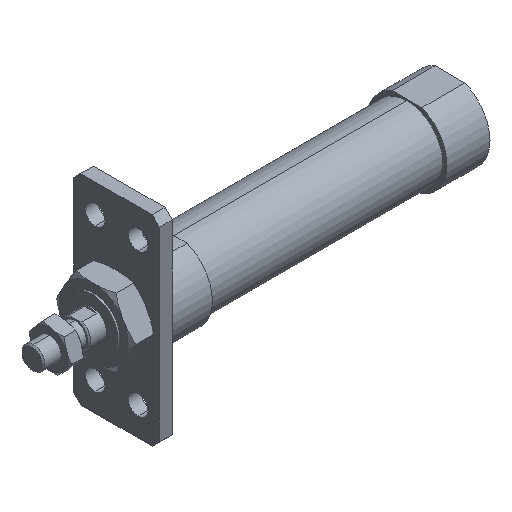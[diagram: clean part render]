
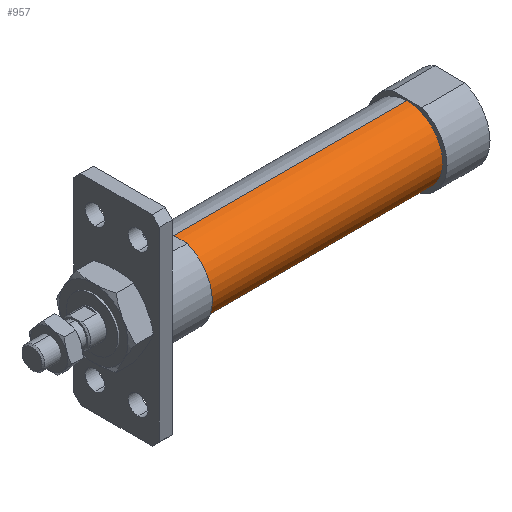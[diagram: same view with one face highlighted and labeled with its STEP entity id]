
A CAD part, isometric view. The second image highlights one B-rep face of the part: STEP entity #957.
In plain terms, the highlighted cylindrical face has radius 12.5 mm (diameter 25 mm), a partial arc.
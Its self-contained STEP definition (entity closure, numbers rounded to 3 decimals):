
#59 = ORIENTED_EDGE ( 'NONE', *, *, #2654, .F. ) ;
#147 = ORIENTED_EDGE ( 'NONE', *, *, #998, .T. ) ;
#248 = DIRECTION ( 'NONE',  ( 0., 0., 1. ) ) ;
#543 = VERTEX_POINT ( 'NONE', #638 ) ;
#570 = CIRCLE ( 'NONE', #2881, 12.5 ) ;
#619 = LINE ( 'NONE', #2903, #3660 ) ;
#637 = VERTEX_POINT ( 'NONE', #3693 ) ;
#638 = CARTESIAN_POINT ( 'NONE',  ( 131., 0., 12.5 ) ) ;
#651 = DIRECTION ( 'NONE',  ( 0., 0., 1. ) ) ;
#759 = CARTESIAN_POINT ( 'NONE',  ( 49., 0., 12.5 ) ) ;
#825 = DIRECTION ( 'NONE',  ( 0., 0., 1. ) ) ;
#853 = DIRECTION ( 'NONE',  ( -1., 0., 0. ) ) ;
#863 = EDGE_LOOP ( 'NONE', ( #59, #2155, #147, #3044 ) ) ;
#879 = AXIS2_PLACEMENT_3D ( 'NONE', #1122, #3455, #248 ) ;
#957 = ADVANCED_FACE ( 'NONE', ( #3166 ), #2281, .T. ) ;
#998 = EDGE_CURVE ( 'NONE', #543, #1990, #619, .T. ) ;
#1100 = CARTESIAN_POINT ( 'NONE',  ( -6.469, 0., -12.5 ) ) ;
#1122 = CARTESIAN_POINT ( 'NONE',  ( -6.469, 0., 0. ) ) ;
#1211 = EDGE_CURVE ( 'NONE', #2803, #543, #2144, .T. ) ;
#1378 = DIRECTION ( 'NONE',  ( -1., 0., 0. ) ) ;
#1468 = AXIS2_PLACEMENT_3D ( 'NONE', #2094, #1497, #651 ) ;
#1497 = DIRECTION ( 'NONE',  ( -1., 0., 0. ) ) ;
#1717 = VECTOR ( 'NONE', #853, 1000. ) ;
#1990 = VERTEX_POINT ( 'NONE', #759 ) ;
#2094 = CARTESIAN_POINT ( 'NONE',  ( 131., 0., 0. ) ) ;
#2134 = EDGE_CURVE ( 'NONE', #637, #1990, #570, .T. ) ;
#2144 = CIRCLE ( 'NONE', #1468, 12.5 ) ;
#2155 = ORIENTED_EDGE ( 'NONE', *, *, #1211, .T. ) ;
#2281 = CYLINDRICAL_SURFACE ( 'NONE', #879, 12.5 ) ;
#2654 = EDGE_CURVE ( 'NONE', #2803, #637, #3066, .T. ) ;
#2803 = VERTEX_POINT ( 'NONE', #2998 ) ;
#2881 = AXIS2_PLACEMENT_3D ( 'NONE', #3141, #3765, #825 ) ;
#2903 = CARTESIAN_POINT ( 'NONE',  ( -6.469, 0., 12.5 ) ) ;
#2998 = CARTESIAN_POINT ( 'NONE',  ( 131., 0., -12.5 ) ) ;
#3044 = ORIENTED_EDGE ( 'NONE', *, *, #2134, .F. ) ;
#3066 = LINE ( 'NONE', #1100, #1717 ) ;
#3141 = CARTESIAN_POINT ( 'NONE',  ( 49., 0., 0. ) ) ;
#3166 = FACE_OUTER_BOUND ( 'NONE', #863, .T. ) ;
#3455 = DIRECTION ( 'NONE',  ( -1., 0., 0. ) ) ;
#3660 = VECTOR ( 'NONE', #1378, 1000. ) ;
#3693 = CARTESIAN_POINT ( 'NONE',  ( 49., 0., -12.5 ) ) ;
#3765 = DIRECTION ( 'NONE',  ( -1., 0., 0. ) ) ;
